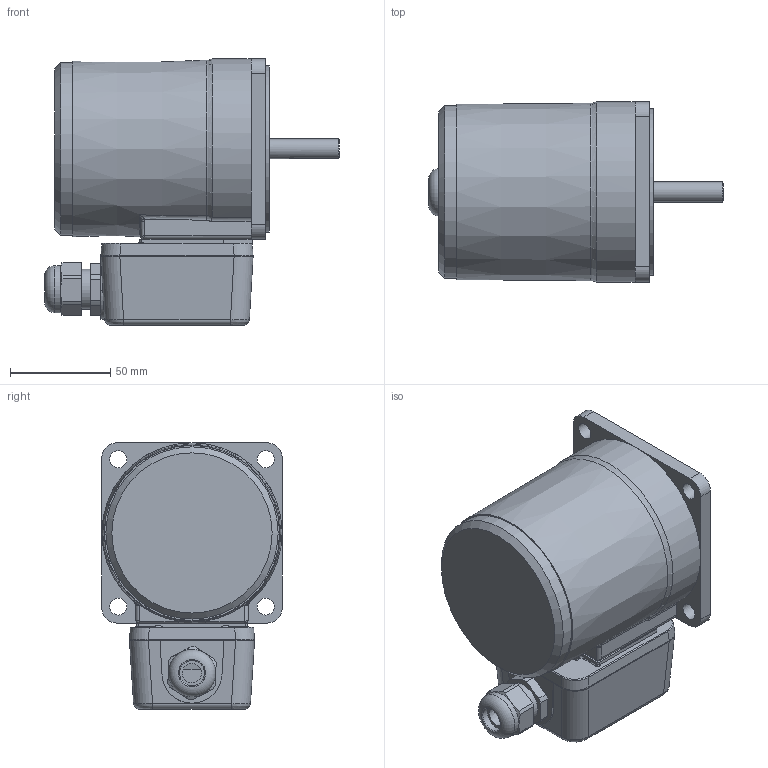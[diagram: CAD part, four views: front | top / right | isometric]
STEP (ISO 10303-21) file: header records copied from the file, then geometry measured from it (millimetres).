
FILE_DESCRIPTION(/* description */ (''),/* implementation_level */ '2;1');
FILE_NAME(/* name */ 'E:\도면작업\2016\0704) 미주향 SG 도면\3D MOTOR\TERMINAL BOX TYPE\INDUCTION TERMINAL BOX\SG9I40K_-T.stp',/* time_stamp */ '2017-01-23T18:35:17+09:00',/* author */ ('jy-jung'),/* organization */ (''),/* preprocessor_version */ 'ST-DEVELOPER v15.6',/* originating_system */ 'Autodesk Inventor 2015',/* authorisation */ '');
FILE_SCHEMA (('AUTOMOTIVE_DESIGN { 1 0 10303 214 3 1 1 }'));
Length unit declared in the file: millimetre
Products named in the file (1): 부품1
Bounding box: 147 x 90 x 133 mm (x, y, z)
Volume: 852321.5 mm3; surface area: 71171.7 mm2
Topology: 1 solids, 9 shells, 368 faces, 922 edges, 586 vertices
Faces by surface type: plane 189, cylinder 106, bspline 50, torus 18, cone 5
Full cylindrical faces by diameter (mm): 2.55 x2, 5.6 x4, 6.3 x4, 8.5 x4, 10 x1, 12.5 x1, 15 x1, 20 x2, 21 x1, 23.6 x1, 40 x1, 83 x1, 86 x1
Entity records: 12770 total; most frequent: CARTESIAN_POINT 4079, ORIENTED_EDGE 1726, DIRECTION 1637, EDGE_CURVE 863, AXIS2_PLACEMENT_3D 585, VERTEX_POINT 572, LINE 467, VECTOR 467
